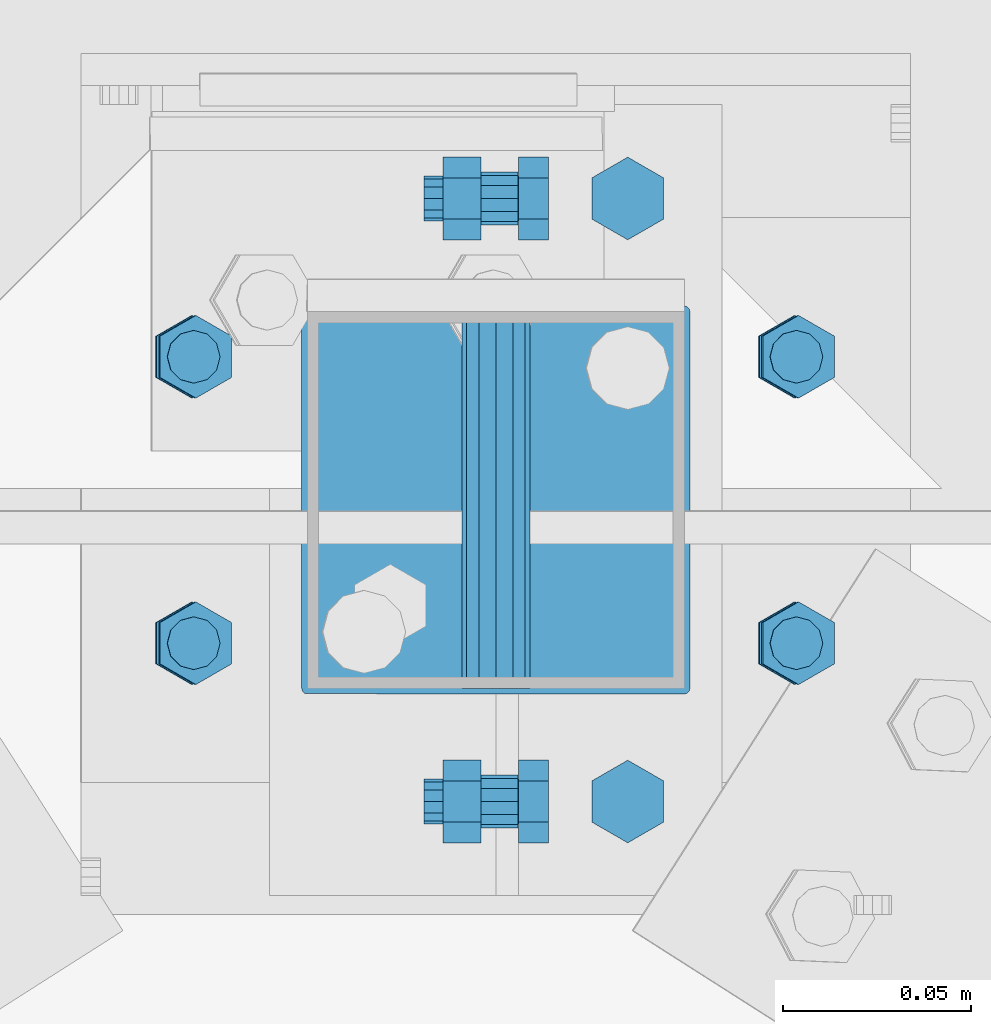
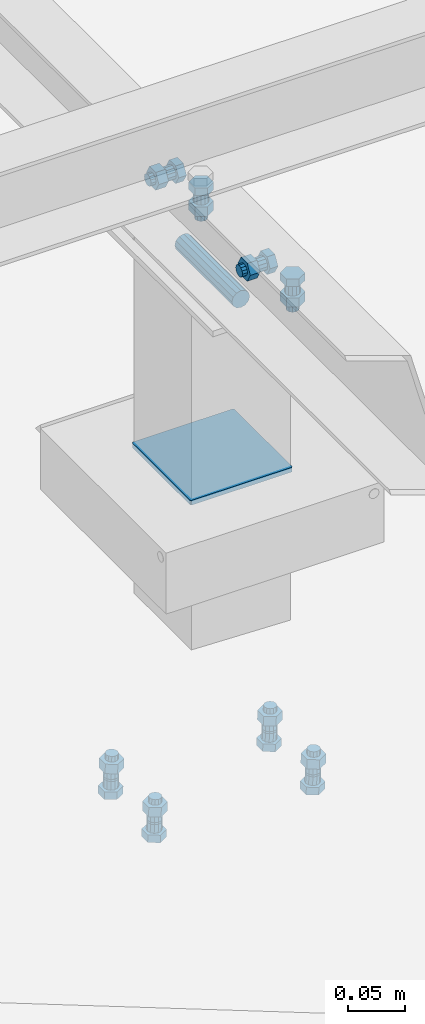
# One storey, part 337 of 3134: 6 mechanical fasteners, 4 elements without a shape of their own.
"""IFC2X3 building model written with IfcOpenShell, lengths in millimetres."""

from ifc_helpers import new_model, si_unit, frame, origin_with_axes, place, context, subcontext, project, spatial, faceted_brep, source, transform, mapped, material, type_object, element, aggregate, save


model = new_model("IFC2X3")

# Units and contexts
model_context = context("Model", 3, precision=1e-05, world=origin_with_axes())
body_context = subcontext(model_context, "Body", "Model", "MODEL_VIEW")
ifc_project = project(units=[si_unit("LENGTHUNIT", "METRE", prefix="MILLI"), si_unit("AREAUNIT", "SQUARE_METRE"), si_unit("VOLUMEUNIT", "CUBIC_METRE"), si_unit("MASSUNIT", "GRAM", prefix="KILO"), si_unit("TIMEUNIT", "SECOND"), si_unit("PLANEANGLEUNIT", "RADIAN"), si_unit("SOLIDANGLEUNIT", "STERADIAN"), si_unit("THERMODYNAMICTEMPERATUREUNIT", "DEGREE_CELSIUS"), si_unit("LUMINOUSINTENSITYUNIT", "LUMEN")], contexts=[model_context])

# Site, building, storey
site_placement = place(None, origin_with_axes())
site = spatial("IfcSite", under=ifc_project, at=site_placement, CompositionType="ELEMENT")
building_placement = place(site_placement, origin_with_axes())
building = spatial("IfcBuilding", under=site, at=building_placement, Name="Undefined", CompositionType="ELEMENT")
storey_placement = place(building_placement, origin_with_axes())
storey = spatial("IfcBuildingStorey", under=building, at=storey_placement, Name="Undefined", CompositionType="ELEMENT", Elevation=0.0)

# Assembly, mechanical fastener
assembly_1_placement = place(storey_placement, origin_with_axes())
assembly_1 = element("IfcElementAssembly", 1, at=assembly_1_placement, inside=storey, AssemblyPlace="NOTDEFINED", PredefinedType="RIGID_FRAME")
ifc_material_1 = material(Name="8.8")
mechanical_fastener_type = type_object("IfcMechanicalFastenerType", Name="Bolt assembly")
shared_shape_1 = source(origin_with_axes(), body_context, "Body", "Brep", [
    faceted_brep([(10.9696551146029, -14.0, 0.0), (5.48482755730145, -14.0, 9.5), (-5.48482755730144, -14.0, 9.5), (-10.9696551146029, -14.0, 1.34339530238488e-15), (-5.48482755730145, -14.0, -9.5), (5.48482755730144, -14.0, -9.50000000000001), (5.48482755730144, -6.0, -9.50000000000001), (-5.48482755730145, -6.0, -9.5), (-10.9696551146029, -6.0, 1.34339530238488e-15), (-5.48482755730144, -6.0, 9.5), (5.48482755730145, -6.0, 9.5), (10.9696551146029, -6.0, 0.0), (6.0, -6.0, 0.0), (5.19615242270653, -6.0, 3.00000000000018), (2.99999999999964, -6.0, 5.19615242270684), (-6.21801588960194e-13, -6.0, 6.0), (-3.00000000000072, -6.0, 5.19615242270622), (-5.19615242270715, -6.0, 2.9999999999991), (-6.0, -6.0, -1.24360317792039e-12), (-5.19615242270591, -6.0, -3.00000000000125), (-2.99999999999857, -6.0, -5.19615242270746), (1.85874342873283e-12, -6.0, -6.0), (3.00000000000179, -6.0, -5.1961524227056), (5.19615242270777, -6.0, -2.99999999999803), (5.19615242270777, 24.0, -2.99999999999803), (3.00000000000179, 24.0, -5.1961524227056), (1.85874342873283e-12, 24.0, -6.0), (-2.99999999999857, 24.0, -5.19615242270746), (-5.19615242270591, 24.0, -3.00000000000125), (-6.0, 24.0, -1.24360317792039e-12), (-5.19615242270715, 24.0, 2.9999999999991), (-3.00000000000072, 24.0, 5.19615242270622), (-6.21801588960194e-13, 24.0, 6.0), (2.99999999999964, 24.0, 5.19615242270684), (5.19615242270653, 24.0, 3.00000000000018), (6.0, 24.0, 0.0), (10.9696551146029, 6.00000000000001, 0.0), (5.48482755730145, 6.00000000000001, 9.5), (-5.48482755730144, 6.00000000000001, 9.5), (-10.9696551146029, 6.00000000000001, 1.34339530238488e-15), (-5.48482755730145, 6.00000000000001, -9.5), (5.48482755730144, 6.00000000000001, -9.50000000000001), (5.48482755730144, 16.0, -9.50000000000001), (-5.48482755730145, 16.0, -9.5), (-10.9696551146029, 16.0, 1.34339530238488e-15), (-5.48482755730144, 16.0, 9.5), (5.48482755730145, 16.0, 9.5), (10.9696551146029, 16.0, 0.0)], [[[0, 1, 2, 3, 4, 5]], [[6, 7, 8, 9, 10, 11]], [[0, 11, 10, 1]], [[1, 10, 9, 2]], [[2, 9, 8, 3]], [[3, 8, 7, 4]], [[4, 7, 6, 5]], [[5, 6, 11, 0]], [[12, 13, 14, 15, 16, 17, 18, 19, 20, 21, 22, 23]], [[24, 25, 26, 27, 28, 29, 30, 31, 32, 33, 34, 35]], [[12, 35, 34, 13]], [[13, 34, 33, 14]], [[14, 33, 32, 15]], [[15, 32, 31, 16]], [[16, 31, 30, 17]], [[17, 30, 29, 18]], [[18, 29, 28, 19]], [[19, 28, 27, 20]], [[20, 27, 26, 21]], [[21, 26, 25, 22]], [[22, 25, 24, 23]], [[23, 24, 35, 12]], [[36, 37, 38, 39, 40, 41]], [[42, 43, 44, 45, 46, 47]], [[36, 47, 46, 37]], [[37, 46, 45, 38]], [[38, 45, 44, 39]], [[39, 44, 43, 40]], [[40, 43, 42, 41]], [[41, 42, 47, 36]]]),
    faceted_brep([(7.0, -5.9, 0.0), (6.06217782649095, -5.9, 3.50000000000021), (3.49999999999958, -5.9, 6.06217782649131), (-7.25435187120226e-13, -5.9, 7.0), (-3.50000000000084, -5.9, 6.06217782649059), (-6.06217782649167, -5.9, 3.49999999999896), (-7.0, -5.9, -1.45087037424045e-12), (-6.06217782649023, -5.9, -3.50000000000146), (-3.49999999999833, -5.9, -6.06217782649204), (2.1685340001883e-12, -5.9, -7.0), (3.50000000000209, -5.9, -6.06217782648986), (6.0621778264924, -5.9, -3.4999999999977), (6.0621778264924, 0.0999999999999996, -3.4999999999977), (3.50000000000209, 0.0999999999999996, -6.06217782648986), (2.1685340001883e-12, 0.0999999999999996, -7.0), (-3.49999999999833, 0.0999999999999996, -6.06217782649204), (-6.06217782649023, 0.0999999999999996, -3.50000000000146), (-7.0, 0.0999999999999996, -1.45087037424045e-12), (-6.06217782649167, 0.0999999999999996, 3.49999999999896), (-3.50000000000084, 0.0999999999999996, 6.06217782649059), (-7.25435187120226e-13, 0.0999999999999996, 7.0), (3.49999999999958, 0.0999999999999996, 6.06217782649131), (6.06217782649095, 0.0999999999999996, 3.50000000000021), (7.0, 0.0999999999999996, 0.0), (7.0, -0.1, 0.0), (6.06217782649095, -0.1, 3.50000000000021), (3.49999999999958, -0.1, 6.06217782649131), (-7.25435187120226e-13, -0.1, 7.0), (-3.50000000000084, -0.1, 6.06217782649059), (-6.06217782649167, -0.1, 3.49999999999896), (-7.0, -0.1, -1.45087037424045e-12), (-6.06217782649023, -0.1, -3.50000000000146), (-3.49999999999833, -0.1, -6.06217782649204), (2.1685340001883e-12, -0.1, -7.0), (3.50000000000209, -0.1, -6.06217782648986), (6.0621778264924, -0.1, -3.4999999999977), (6.0621778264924, 6.00000000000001, -3.4999999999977), (3.50000000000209, 6.00000000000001, -6.06217782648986), (2.1685340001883e-12, 6.00000000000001, -7.0), (-3.49999999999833, 6.00000000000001, -6.06217782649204), (-6.06217782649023, 6.00000000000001, -3.50000000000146), (-7.0, 6.00000000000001, -1.45087037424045e-12), (-6.06217782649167, 6.00000000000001, 3.49999999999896), (-3.50000000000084, 6.00000000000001, 6.06217782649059), (-7.25435187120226e-13, 6.00000000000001, 7.0), (3.49999999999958, 6.00000000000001, 6.06217782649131), (6.06217782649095, 6.00000000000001, 3.50000000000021), (7.0, 6.00000000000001, 0.0)], [[[0, 1, 2, 3, 4, 5, 6, 7, 8, 9, 10, 11]], [[12, 13, 14, 15, 16, 17, 18, 19, 20, 21, 22, 23]], [[0, 23, 22, 1]], [[1, 22, 21, 2]], [[2, 21, 20, 3]], [[3, 20, 19, 4]], [[4, 19, 18, 5]], [[5, 18, 17, 6]], [[6, 17, 16, 7]], [[7, 16, 15, 8]], [[8, 15, 14, 9]], [[9, 14, 13, 10]], [[10, 13, 12, 11]], [[11, 12, 23, 0]], [[24, 25, 26, 27, 28, 29, 30, 31, 32, 33, 34, 35]], [[36, 37, 38, 39, 40, 41, 42, 43, 44, 45, 46, 47]], [[24, 47, 46, 25]], [[25, 46, 45, 26]], [[26, 45, 44, 27]], [[27, 44, 43, 28]], [[28, 43, 42, 29]], [[29, 42, 41, 30]], [[30, 41, 40, 31]], [[31, 40, 39, 32]], [[32, 39, 38, 33]], [[33, 38, 37, 34]], [[34, 37, 36, 35]], [[35, 36, 47, 24]]]),
])
mechanical_fastener_1_placement = place(assembly_1_placement, frame((75585.0, 12290.0, 5750.0), z_axis=(-1.0, 0.0, 0.0), x_axis=(0.0, 1.0, 0.0)))
mechanical_fastener_1 = element("IfcMechanicalFastener", 2, at=mechanical_fastener_1_placement, type_object=mechanical_fastener_type, material=ifc_material_1, Name="Bolt assembly", NominalDiameter=12.0, NominalLength=30.0, context=body_context, shape_type="MappedRepresentation", body=[
    mapped(shared_shape_1, transform((0.0, 0.0, 0.0))),
    mapped(shared_shape_1, transform((160.0, 0.0, 0.0))),
])

assembly_2_placement = place(storey_placement, origin_with_axes())
assembly_2 = element("IfcElementAssembly", 3, at=assembly_2_placement, inside=storey, AssemblyPlace="NOTDEFINED", PredefinedType="RIGID_FRAME")
shared_shape_2 = source(origin_with_axes(), body_context, "Body", "Brep", [
    faceted_brep([(10.9696551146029, -14.0, 0.0), (5.48482755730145, -14.0, 9.5), (-5.48482755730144, -14.0, 9.5), (-10.9696551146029, -14.0, 1.34339530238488e-15), (-5.48482755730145, -14.0, -9.5), (5.48482755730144, -14.0, -9.50000000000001), (5.48482755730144, -6.0, -9.50000000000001), (-5.48482755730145, -6.0, -9.5), (-10.9696551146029, -6.0, 1.34339530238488e-15), (-5.48482755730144, -6.0, 9.5), (5.48482755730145, -6.0, 9.5), (10.9696551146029, -6.0, 0.0), (6.0, -6.0, 0.0), (5.19615242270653, -6.0, 3.00000000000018), (2.99999999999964, -6.0, 5.19615242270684), (-6.21801588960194e-13, -6.0, 6.0), (-3.00000000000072, -6.0, 5.19615242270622), (-5.19615242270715, -6.0, 2.9999999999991), (-6.0, -6.0, -1.24360317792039e-12), (-5.19615242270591, -6.0, -3.00000000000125), (-2.99999999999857, -6.0, -5.19615242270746), (1.85874342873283e-12, -6.0, -6.0), (3.00000000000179, -6.0, -5.1961524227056), (5.19615242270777, -6.0, -2.99999999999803), (5.19615242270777, 19.0, -2.99999999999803), (3.00000000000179, 19.0, -5.1961524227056), (1.85874342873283e-12, 19.0, -6.0), (-2.99999999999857, 19.0, -5.19615242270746), (-5.19615242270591, 19.0, -3.00000000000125), (-6.0, 19.0, -1.24360317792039e-12), (-5.19615242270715, 19.0, 2.9999999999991), (-3.00000000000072, 19.0, 5.19615242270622), (-6.21801588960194e-13, 19.0, 6.0), (2.99999999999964, 19.0, 5.19615242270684), (5.19615242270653, 19.0, 3.00000000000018), (6.0, 19.0, 0.0), (10.9696551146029, 4.00000000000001, 0.0), (5.48482755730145, 4.00000000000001, 9.5), (-5.48482755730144, 4.00000000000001, 9.5), (-10.9696551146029, 4.00000000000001, 1.34339530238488e-15), (-5.48482755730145, 4.00000000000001, -9.5), (5.48482755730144, 4.00000000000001, -9.50000000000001), (5.48482755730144, 14.0, -9.50000000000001), (-5.48482755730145, 14.0, -9.5), (-10.9696551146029, 14.0, 1.34339530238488e-15), (-5.48482755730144, 14.0, 9.5), (5.48482755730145, 14.0, 9.5), (10.9696551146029, 14.0, 0.0)], [[[0, 1, 2, 3, 4, 5]], [[6, 7, 8, 9, 10, 11]], [[0, 11, 10, 1]], [[1, 10, 9, 2]], [[2, 9, 8, 3]], [[3, 8, 7, 4]], [[4, 7, 6, 5]], [[5, 6, 11, 0]], [[12, 13, 14, 15, 16, 17, 18, 19, 20, 21, 22, 23]], [[24, 25, 26, 27, 28, 29, 30, 31, 32, 33, 34, 35]], [[12, 35, 34, 13]], [[13, 34, 33, 14]], [[14, 33, 32, 15]], [[15, 32, 31, 16]], [[16, 31, 30, 17]], [[17, 30, 29, 18]], [[18, 29, 28, 19]], [[19, 28, 27, 20]], [[20, 27, 26, 21]], [[21, 26, 25, 22]], [[22, 25, 24, 23]], [[23, 24, 35, 12]], [[36, 37, 38, 39, 40, 41]], [[42, 43, 44, 45, 46, 47]], [[36, 47, 46, 37]], [[37, 46, 45, 38]], [[38, 45, 44, 39]], [[39, 44, 43, 40]], [[40, 43, 42, 41]], [[41, 42, 47, 36]]]),
    faceted_brep([(7.0, -0.1, 0.0), (6.06217782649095, -0.1, 3.50000000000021), (3.49999999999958, -0.1, 6.06217782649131), (-7.25435187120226e-13, -0.1, 7.0), (-3.50000000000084, -0.1, 6.06217782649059), (-6.06217782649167, -0.1, 3.49999999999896), (-7.0, -0.1, -1.45087037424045e-12), (-6.06217782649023, -0.1, -3.50000000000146), (-3.49999999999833, -0.1, -6.06217782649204), (2.1685340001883e-12, -0.1, -7.0), (3.50000000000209, -0.1, -6.06217782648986), (6.0621778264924, -0.1, -3.4999999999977), (6.0621778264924, 4.00000000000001, -3.4999999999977), (3.50000000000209, 4.00000000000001, -6.06217782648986), (2.1685340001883e-12, 4.00000000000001, -7.0), (-3.49999999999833, 4.00000000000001, -6.06217782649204), (-6.06217782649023, 4.00000000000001, -3.50000000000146), (-7.0, 4.00000000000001, -1.45087037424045e-12), (-6.06217782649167, 4.00000000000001, 3.49999999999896), (-3.50000000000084, 4.00000000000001, 6.06217782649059), (-7.25435187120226e-13, 4.00000000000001, 7.0), (3.49999999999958, 4.00000000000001, 6.06217782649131), (6.06217782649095, 4.00000000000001, 3.50000000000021), (7.0, 4.00000000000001, 0.0), (7.0, -5.9, 0.0), (6.06217782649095, -5.9, 3.50000000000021), (3.49999999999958, -5.9, 6.06217782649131), (-7.25435187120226e-13, -5.9, 7.0), (-3.50000000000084, -5.9, 6.06217782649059), (-6.06217782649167, -5.9, 3.49999999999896), (-7.0, -5.9, -1.45087037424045e-12), (-6.06217782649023, -5.9, -3.50000000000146), (-3.49999999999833, -5.9, -6.06217782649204), (2.1685340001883e-12, -5.9, -7.0), (3.50000000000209, -5.9, -6.06217782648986), (6.0621778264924, -5.9, -3.4999999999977), (6.0621778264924, 0.0999999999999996, -3.4999999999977), (3.50000000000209, 0.0999999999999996, -6.06217782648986), (2.1685340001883e-12, 0.0999999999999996, -7.0), (-3.49999999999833, 0.0999999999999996, -6.06217782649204), (-6.06217782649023, 0.0999999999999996, -3.50000000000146), (-7.0, 0.0999999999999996, -1.45087037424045e-12), (-6.06217782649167, 0.0999999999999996, 3.49999999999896), (-3.50000000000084, 0.0999999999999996, 6.06217782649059), (-7.25435187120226e-13, 0.0999999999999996, 7.0), (3.49999999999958, 0.0999999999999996, 6.06217782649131), (6.06217782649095, 0.0999999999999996, 3.50000000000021), (7.0, 0.0999999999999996, 0.0)], [[[0, 1, 2, 3, 4, 5, 6, 7, 8, 9, 10, 11]], [[12, 13, 14, 15, 16, 17, 18, 19, 20, 21, 22, 23]], [[0, 23, 22, 1]], [[1, 22, 21, 2]], [[2, 21, 20, 3]], [[3, 20, 19, 4]], [[4, 19, 18, 5]], [[5, 18, 17, 6]], [[6, 17, 16, 7]], [[7, 16, 15, 8]], [[8, 15, 14, 9]], [[9, 14, 13, 10]], [[10, 13, 12, 11]], [[11, 12, 23, 0]], [[24, 25, 26, 27, 28, 29, 30, 31, 32, 33, 34, 35]], [[36, 37, 38, 39, 40, 41, 42, 43, 44, 45, 46, 47]], [[24, 47, 46, 25]], [[25, 46, 45, 26]], [[26, 45, 44, 27]], [[27, 44, 43, 28]], [[28, 43, 42, 29]], [[29, 42, 41, 30]], [[30, 41, 40, 31]], [[31, 40, 39, 32]], [[32, 39, 38, 33]], [[33, 38, 37, 34]], [[34, 37, 36, 35]], [[35, 36, 47, 24]]]),
])
mechanical_fastener_2_placement = place(assembly_2_placement, frame((75550.0, 12290.0, 5785.0), z_axis=(0.0, 0.0, 1.0), x_axis=(0.0, 1.0, 0.0)))
mechanical_fastener_2 = element("IfcMechanicalFastener", 4, at=mechanical_fastener_2_placement, type_object=mechanical_fastener_type, material=ifc_material_1, Name="Bolt assembly", NominalDiameter=12.0, NominalLength=25.0, context=body_context, shape_type="MappedRepresentation", body=[
    mapped(shared_shape_2, transform((0.0, 0.0, 0.0))),
    mapped(shared_shape_2, transform((160.0, 0.0, 0.0))),
])
aggregate(assembly_2, [mechanical_fastener_2])

assembly_3_placement = place(storey_placement, origin_with_axes())
assembly_3 = element("IfcElementAssembly", 5, at=assembly_3_placement, inside=storey, AssemblyPlace="NOTDEFINED", PredefinedType="RIGID_FRAME")
shared_shape_3 = source(origin_with_axes(), body_context, "Body", "Brep", [
    faceted_brep([(7.0, 13.0000253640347, 0.0), (6.06217782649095, 13.0000253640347, 3.50000000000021), (3.49999999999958, 13.0000253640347, 6.06217782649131), (-7.25435187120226e-13, 13.0000253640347, 7.0), (-3.50000000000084, 13.0000253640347, 6.06217782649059), (-6.06217782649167, 13.0000253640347, 3.49999999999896), (-7.0, 13.0000253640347, -1.45087037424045e-12), (-6.06217782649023, 13.0000253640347, -3.50000000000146), (-3.49999999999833, 13.0000253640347, -6.06217782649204), (2.1685340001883e-12, 13.0000253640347, -7.0), (3.50000000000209, 13.0000253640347, -6.06217782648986), (6.0621778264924, 13.0000253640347, -3.4999999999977), (6.0621778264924, 15.0999999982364, -3.4999999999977), (3.50000000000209, 15.0999999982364, -6.06217782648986), (2.1685340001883e-12, 15.0999999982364, -7.0), (-3.49999999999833, 15.0999999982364, -6.06217782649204), (-6.06217782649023, 15.0999999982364, -3.50000000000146), (-7.0, 15.0999999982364, -1.45087037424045e-12), (-6.06217782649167, 15.0999999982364, 3.49999999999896), (-3.50000000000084, 15.0999999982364, 6.06217782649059), (-7.25435187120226e-13, 15.0999999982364, 7.0), (3.49999999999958, 15.0999999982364, 6.06217782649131), (6.06217782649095, 15.0999999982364, 3.50000000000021), (7.0, 15.0999999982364, 0.0)], [[[0, 1, 2, 3, 4, 5, 6, 7, 8, 9, 10, 11]], [[12, 13, 14, 15, 16, 17, 18, 19, 20, 21, 22, 23]], [[0, 23, 22, 1]], [[1, 22, 21, 2]], [[2, 21, 20, 3]], [[3, 20, 19, 4]], [[4, 19, 18, 5]], [[5, 18, 17, 6]], [[6, 17, 16, 7]], [[7, 16, 15, 8]], [[8, 15, 14, 9]], [[9, 14, 13, 10]], [[10, 13, 12, 11]], [[11, 12, 23, 0]]]),
])
mechanical_fastener_3_placement = place(assembly_3_placement, frame((75549.3451187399, 12408.0, 5179.0072055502), z_axis=(-0.99951962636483, 0.0, 0.0309922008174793), x_axis=(0.0, -1.0, 0.0)))
mechanical_fastener_3 = element("IfcMechanicalFastener", 6, at=mechanical_fastener_3_placement, type_object=mechanical_fastener_type, material=ifc_material_1, Name="Bolt assembly", NominalDiameter=12.0, NominalLength=2.0, context=body_context, shape_type="MappedRepresentation", body=[
    mapped(shared_shape_3, transform((0.0, -5.32963895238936e-10, -79.9999999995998))),
    mapped(shared_shape_3, transform((76.0, -5.32963895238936e-10, -79.9999999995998))),
    mapped(shared_shape_3, transform((0.0, 5.3114490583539e-10, 79.9999999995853))),
    mapped(shared_shape_3, transform((76.0, 5.3114490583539e-10, 79.9999999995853))),
])
aggregate(assembly_3, [mechanical_fastener_3])

# Mechanical fastener
shared_shape_4 = source(origin_with_axes(), body_context, "Body", "Brep", [
    faceted_brep([(9.0, -50.0, 0.0), (7.79422863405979, -50.0, 4.50000000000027), (4.49999999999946, -50.0, 7.79422863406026), (-9.3270238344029e-13, -50.0, 9.0), (-4.50000000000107, -50.0, 7.79422863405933), (-7.79422863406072, -50.0, 4.49999999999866), (-9.0, -50.0, -1.86540476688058e-12), (-7.79422863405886, -50.0, -4.50000000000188), (-4.49999999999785, -50.0, -7.79422863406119), (2.78811514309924e-12, -50.0, -9.0), (4.50000000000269, -50.0, -7.7942286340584), (7.79422863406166, -50.0, -4.49999999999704), (7.79422863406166, 50.1, -4.49999999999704), (4.50000000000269, 50.1, -7.7942286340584), (2.78811514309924e-12, 50.1, -9.0), (-4.49999999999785, 50.1, -7.79422863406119), (-7.79422863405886, 50.1, -4.50000000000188), (-9.0, 50.1, -1.86540476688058e-12), (-7.79422863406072, 50.1, 4.49999999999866), (-4.50000000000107, 50.1, 7.79422863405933), (-9.3270238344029e-13, 50.1, 9.0), (4.49999999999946, 50.1, 7.79422863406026), (7.79422863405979, 50.1, 4.50000000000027), (9.0, 50.1, 0.0)], [[[0, 1, 2, 3, 4, 5, 6, 7, 8, 9, 10, 11]], [[12, 13, 14, 15, 16, 17, 18, 19, 20, 21, 22, 23]], [[0, 23, 22, 1]], [[1, 22, 21, 2]], [[2, 21, 20, 3]], [[3, 20, 19, 4]], [[4, 19, 18, 5]], [[5, 18, 17, 6]], [[6, 17, 16, 7]], [[7, 16, 15, 8]], [[8, 15, 14, 9]], [[9, 14, 13, 10]], [[10, 13, 12, 11]], [[11, 12, 23, 0]]]),
])
mechanical_fastener_4_placement = place(assembly_1_placement, frame((75550.0, 12370.0, 5730.0), z_axis=(-1.0, 0.0, 0.0), x_axis=(0.0, 0.0, 1.0)))
mechanical_fastener_4 = element("IfcMechanicalFastener", 7, at=mechanical_fastener_4_placement, type_object=mechanical_fastener_type, material=ifc_material_1, Name="Bolt assembly", NominalDiameter=16.0, NominalLength=100.0, context=body_context, shape_type="MappedRepresentation", body=[
    mapped(shared_shape_4, transform((0.0, 0.0, 0.0))),
])

ifc_material_2 = material(Name="6.8")
shared_shape_5 = source(origin_with_axes(), body_context, "Body", "Brep", [
    faceted_brep([(51.5, 1.36424205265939e-12, 50.0), (51.3858192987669, 1.36424205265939e-12, 50.5740251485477), (51.0606601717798, 1.36424205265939e-12, 51.0606601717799), (50.5740251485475, 1.36424205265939e-12, 51.385819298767), (-50.0000000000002, 1.36424205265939e-12, 51.5), (-50.7500000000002, 1.36424205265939e-12, 51.2990381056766), (-51.2990381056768, 1.36424205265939e-12, 50.7499999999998), (-51.5, 1.36424205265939e-12, 49.9999999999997), (-51.5, 1.36424205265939e-12, -50.0000000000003), (-51.2990381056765, 1.36424205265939e-12, -50.7500000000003), (-50.7499999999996, 1.36424205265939e-12, -51.2990381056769), (-49.9999999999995, 1.36424205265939e-12, -51.5), (50.0000000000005, 1.36424205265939e-12, -51.5), (50.7500000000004, 1.36424205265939e-12, -51.2990381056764), (51.2990381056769, 1.36424205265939e-12, -50.7499999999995), (51.5, 1.36424205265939e-12, -49.9999999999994), (51.5, 5.10000000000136, -49.9999999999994), (51.2990381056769, 5.10000000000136, -50.7499999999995), (50.7500000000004, 5.10000000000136, -51.2990381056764), (50.0000000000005, 5.10000000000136, -51.5), (-49.9999999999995, 5.10000000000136, -51.5), (-50.7499999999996, 5.10000000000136, -51.2990381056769), (-51.2990381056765, 5.10000000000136, -50.7500000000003), (-51.5, 5.10000000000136, -50.0000000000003), (-51.5, 5.10000000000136, 49.9999999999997), (-51.2990381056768, 5.10000000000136, 50.7499999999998), (-50.7500000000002, 5.10000000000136, 51.2990381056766), (-50.0000000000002, 5.10000000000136, 51.5), (50.5740251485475, 5.10000000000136, 51.385819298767), (51.0606601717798, 5.10000000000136, 51.0606601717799), (51.3858192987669, 5.10000000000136, 50.5740251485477), (51.5, 5.10000000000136, 50.0)], [[[0, 1, 2, 3, 4, 5, 6, 7, 8, 9, 10, 11, 12, 13, 14, 15]], [[16, 17, 18, 19, 20, 21, 22, 23, 24, 25, 26, 27, 28, 29, 30, 31]], [[0, 31, 30, 1]], [[1, 30, 29, 2]], [[2, 29, 28, 3]], [[3, 28, 27, 4]], [[4, 27, 26, 5]], [[5, 26, 25, 6]], [[6, 25, 24, 7]], [[7, 24, 23, 8]], [[8, 23, 22, 9]], [[9, 22, 21, 10]], [[10, 21, 20, 11]], [[11, 20, 19, 12]], [[12, 19, 18, 13]], [[13, 18, 17, 14]], [[14, 17, 16, 15]], [[15, 16, 31, 0]]]),
])
mechanical_fastener_5_placement = place(assembly_1_placement, frame((75550.0, 12370.0, 5533.71), z_axis=(0.0, -1.0, 0.0), x_axis=(-1.0, 0.0, 0.0)))
mechanical_fastener_5 = element("IfcMechanicalFastener", 8, at=mechanical_fastener_5_placement, type_object=mechanical_fastener_type, material=ifc_material_2, Name="Bolt assembly", NominalDiameter=10.0, NominalLength=5.0, context=body_context, shape_type="MappedRepresentation", body=[
    mapped(shared_shape_5, transform((0.0, 0.0, 0.0))),
])

aggregate(assembly_1, [mechanical_fastener_4, mechanical_fastener_1, mechanical_fastener_5])

# Assembly, mechanical fastener
assembly_4_placement = place(storey_placement, origin_with_axes())
assembly_4 = element("IfcElementAssembly", 9, at=assembly_4_placement, inside=storey, Name="300", AssemblyPlace="NOTDEFINED", PredefinedType="RIGID_FRAME")
shared_shape_6 = source(origin_with_axes(), body_context, "Body", "Brep", [
    faceted_brep([(10.9696551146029, -10.1954959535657, 0.0), (5.48482755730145, -10.1954959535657, 9.5), (-5.48482755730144, -10.1954959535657, 9.5), (-10.9696551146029, -10.1954959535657, 1.34339530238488e-15), (-5.48482755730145, -10.1954959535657, -9.5), (5.48482755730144, -10.1954959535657, -9.50000000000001), (5.48482755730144, -2.19549595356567, -9.50000000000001), (-5.48482755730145, -2.19549595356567, -9.5), (-10.9696551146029, -2.19549595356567, 1.34339530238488e-15), (-5.48482755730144, -2.19549595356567, 9.5), (5.48482755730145, -2.19549595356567, 9.5), (10.9696551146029, -2.19549595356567, 0.0), (6.0, -2.19549595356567, 0.0), (5.19615242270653, -2.19549595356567, 3.00000000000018), (2.99999999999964, -2.19549595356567, 5.19615242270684), (-6.21801588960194e-13, -2.19549595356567, 6.0), (-3.00000000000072, -2.19549595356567, 5.19615242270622), (-5.19615242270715, -2.19549595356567, 2.9999999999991), (-6.0, -2.19549595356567, -1.24360317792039e-12), (-5.19615242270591, -2.19549595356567, -3.00000000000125), (-2.99999999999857, -2.19549595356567, -5.19615242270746), (1.85874342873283e-12, -2.19549595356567, -6.0), (3.00000000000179, -2.19549595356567, -5.1961524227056), (5.19615242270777, -2.19549595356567, -2.99999999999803), (5.19615242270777, 32.8045040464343, -2.99999999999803), (3.00000000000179, 32.8045040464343, -5.1961524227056), (1.85874342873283e-12, 32.8045040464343, -6.0), (-2.99999999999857, 32.8045040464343, -5.19615242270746), (-5.19615242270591, 32.8045040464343, -3.00000000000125), (-6.0, 32.8045040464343, -1.24360317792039e-12), (-5.19615242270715, 32.8045040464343, 2.9999999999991), (-3.00000000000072, 32.8045040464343, 5.19615242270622), (-6.21801588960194e-13, 32.8045040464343, 6.0), (2.99999999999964, 32.8045040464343, 5.19615242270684), (5.19615242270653, 32.8045040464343, 3.00000000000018), (6.0, 32.8045040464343, 0.0), (10.9696551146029, 17.0008987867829, 0.0), (5.48482755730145, 17.0008987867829, 9.5), (-5.48482755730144, 17.0008987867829, 9.5), (-10.9696551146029, 17.0008987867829, 1.34339530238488e-15), (-5.48482755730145, 17.0008987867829, -9.5), (5.48482755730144, 17.0008987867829, -9.50000000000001), (5.48482755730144, 27.0008987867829, -9.50000000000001), (-5.48482755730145, 27.0008987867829, -9.5), (-10.9696551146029, 27.0008987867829, 1.34339530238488e-15), (-5.48482755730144, 27.0008987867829, 9.5), (5.48482755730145, 27.0008987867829, 9.5), (10.9696551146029, 27.0008987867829, 0.0)], [[[0, 1, 2, 3, 4, 5]], [[6, 7, 8, 9, 10, 11]], [[0, 11, 10, 1]], [[1, 10, 9, 2]], [[2, 9, 8, 3]], [[3, 8, 7, 4]], [[4, 7, 6, 5]], [[5, 6, 11, 0]], [[12, 13, 14, 15, 16, 17, 18, 19, 20, 21, 22, 23]], [[24, 25, 26, 27, 28, 29, 30, 31, 32, 33, 34, 35]], [[12, 35, 34, 13]], [[13, 34, 33, 14]], [[14, 33, 32, 15]], [[15, 32, 31, 16]], [[16, 31, 30, 17]], [[17, 30, 29, 18]], [[18, 29, 28, 19]], [[19, 28, 27, 20]], [[20, 27, 26, 21]], [[21, 26, 25, 22]], [[22, 25, 24, 23]], [[23, 24, 35, 12]], [[36, 37, 38, 39, 40, 41]], [[42, 43, 44, 45, 46, 47]], [[36, 47, 46, 37]], [[37, 46, 45, 38]], [[38, 45, 44, 39]], [[39, 44, 43, 40]], [[40, 43, 42, 41]], [[41, 42, 47, 36]]]),
    faceted_brep([(7.0, 8.90089878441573, 0.0), (6.06217782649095, 8.90089878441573, 3.50000000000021), (3.49999999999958, 8.90089878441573, 6.06217782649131), (-7.25435187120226e-13, 8.90089878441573, 7.0), (-3.50000000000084, 8.90089878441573, 6.06217782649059), (-6.06217782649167, 8.90089878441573, 3.49999999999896), (-7.0, 8.90089878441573, -1.45087037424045e-12), (-6.06217782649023, 8.90089878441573, -3.50000000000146), (-3.49999999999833, 8.90089878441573, -6.06217782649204), (2.1685340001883e-12, 8.90089878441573, -7.0), (3.50000000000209, 8.90089878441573, -6.06217782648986), (6.0621778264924, 8.90089878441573, -3.4999999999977), (6.0621778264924, 17.0008987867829, -3.4999999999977), (3.50000000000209, 17.0008987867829, -6.06217782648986), (2.1685340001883e-12, 17.0008987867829, -7.0), (-3.49999999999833, 17.0008987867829, -6.06217782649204), (-6.06217782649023, 17.0008987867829, -3.50000000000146), (-7.0, 17.0008987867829, -1.45087037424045e-12), (-6.06217782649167, 17.0008987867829, 3.49999999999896), (-3.50000000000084, 17.0008987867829, 6.06217782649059), (-7.25435187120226e-13, 17.0008987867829, 7.0), (3.49999999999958, 17.0008987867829, 6.06217782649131), (6.06217782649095, 17.0008987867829, 3.50000000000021), (7.0, 17.0008987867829, 0.0), (7.0, -2.09549595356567, 0.0), (6.06217782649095, -2.09549595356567, 3.50000000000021), (3.49999999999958, -2.09549595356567, 6.06217782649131), (-7.25435187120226e-13, -2.09549595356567, 7.0), (-3.50000000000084, -2.09549595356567, 6.06217782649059), (-6.06217782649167, -2.09549595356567, 3.49999999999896), (-7.0, -2.09549595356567, -1.45087037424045e-12), (-6.06217782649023, -2.09549595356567, -3.50000000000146), (-3.49999999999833, -2.09549595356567, -6.06217782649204), (2.1685340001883e-12, -2.09549595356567, -7.0), (3.50000000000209, -2.09549595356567, -6.06217782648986), (6.0621778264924, -2.09549595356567, -3.4999999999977), (6.0621778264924, 7.10450385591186, -3.4999999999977), (3.50000000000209, 7.10450385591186, -6.06217782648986), (2.1685340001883e-12, 7.10450385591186, -7.0), (-3.49999999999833, 7.10450385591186, -6.06217782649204), (-6.06217782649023, 7.10450385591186, -3.50000000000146), (-7.0, 7.10450385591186, -1.45087037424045e-12), (-6.06217782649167, 7.10450385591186, 3.49999999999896), (-3.50000000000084, 7.10450385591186, 6.06217782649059), (-7.25435187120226e-13, 7.10450385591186, 7.0), (3.49999999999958, 7.10450385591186, 6.06217782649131), (6.06217782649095, 7.10450385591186, 3.50000000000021), (7.0, 7.10450385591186, 0.0)], [[[0, 1, 2, 3, 4, 5, 6, 7, 8, 9, 10, 11]], [[12, 13, 14, 15, 16, 17, 18, 19, 20, 21, 22, 23]], [[0, 23, 22, 1]], [[1, 22, 21, 2]], [[2, 21, 20, 3]], [[3, 20, 19, 4]], [[4, 19, 18, 5]], [[5, 18, 17, 6]], [[6, 17, 16, 7]], [[7, 16, 15, 8]], [[8, 15, 14, 9]], [[9, 14, 13, 10]], [[10, 13, 12, 11]], [[11, 12, 23, 0]], [[24, 25, 26, 27, 28, 29, 30, 31, 32, 33, 34, 35]], [[36, 37, 38, 39, 40, 41, 42, 43, 44, 45, 46, 47]], [[24, 47, 46, 25]], [[25, 46, 45, 26]], [[26, 45, 44, 27]], [[27, 44, 43, 28]], [[28, 43, 42, 29]], [[29, 42, 41, 30]], [[30, 41, 40, 31]], [[31, 40, 39, 32]], [[32, 39, 38, 33]], [[33, 38, 37, 34]], [[34, 37, 36, 35]], [[35, 36, 47, 24]]]),
])
mechanical_fastener_6_placement = place(assembly_4_placement, frame((75549.5351187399, 12408.0, 5185.0072055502), z_axis=(-0.99951962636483, 0.0, 0.0309922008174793), x_axis=(0.0, -1.0, 0.0)))
mechanical_fastener_6 = element("IfcMechanicalFastener", 10, at=mechanical_fastener_6_placement, type_object=mechanical_fastener_type, material=ifc_material_1, Name="Bolt assembly", NominalDiameter=12.0, NominalLength=35.0, context=body_context, shape_type="MappedRepresentation", body=[
    mapped(shared_shape_6, transform((0.0, -5.32963895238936e-10, -79.9999999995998))),
    mapped(shared_shape_6, transform((76.0, -5.32963895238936e-10, -79.9999999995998))),
    mapped(shared_shape_6, transform((0.0, 5.3114490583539e-10, 79.9999999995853))),
    mapped(shared_shape_6, transform((76.0, 5.3114490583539e-10, 79.9999999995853))),
])
aggregate(assembly_4, [mechanical_fastener_6])

save(model, "model.ifc")
